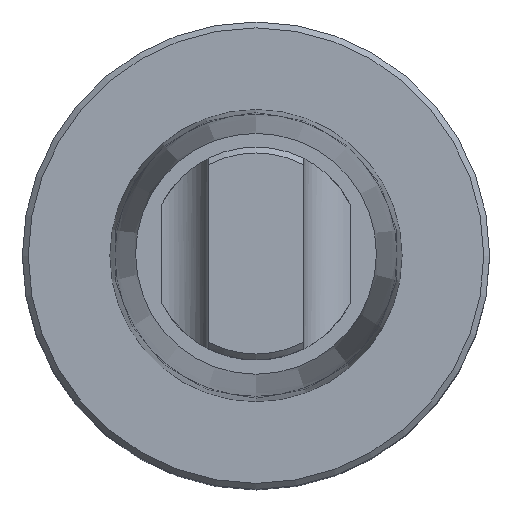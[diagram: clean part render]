
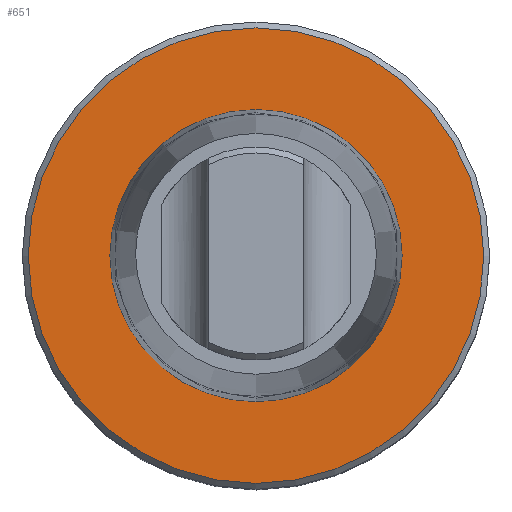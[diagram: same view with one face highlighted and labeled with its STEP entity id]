
A CAD part, top view. The second image highlights one B-rep face of the part: STEP entity #651.
In plain terms, the highlighted planar face has unit normal (0, 0, 1).
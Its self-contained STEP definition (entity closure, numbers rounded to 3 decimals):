
#19=FACE_BOUND('',#217,.T.);
#32=PLANE('',#734);
#171=FACE_OUTER_BOUND('',#216,.T.);
#216=EDGE_LOOP('',(#511));
#217=EDGE_LOOP('',(#512));
#270=CIRCLE('',#733,19.25);
#271=CIRCLE('',#735,12.);
#322=VERTEX_POINT('',#1343);
#323=VERTEX_POINT('',#1347);
#394=EDGE_CURVE('',#322,#322,#270,.T.);
#396=EDGE_CURVE('',#323,#323,#271,.T.);
#511=ORIENTED_EDGE('',*,*,#394,.F.);
#512=ORIENTED_EDGE('',*,*,#396,.F.);
#651=ADVANCED_FACE('',(#171,#19),#32,.T.);
#733=AXIS2_PLACEMENT_3D('',#1344,#850,#851);
#734=AXIS2_PLACEMENT_3D('',#1346,#853,#854);
#735=AXIS2_PLACEMENT_3D('',#1348,#855,#856);
#850=DIRECTION('center_axis',(0.,0.,-1.));
#851=DIRECTION('ref_axis',(0.,-1.,0.));
#853=DIRECTION('center_axis',(0.,0.,1.));
#854=DIRECTION('ref_axis',(1.,0.,0.));
#855=DIRECTION('center_axis',(0.,0.,1.));
#856=DIRECTION('ref_axis',(1.,0.,0.));
#1343=CARTESIAN_POINT('',(0.,19.25,-104.5));
#1344=CARTESIAN_POINT('Origin',(0.,0.,-104.5));
#1346=CARTESIAN_POINT('Origin',(0.,12.,-104.5));
#1347=CARTESIAN_POINT('',(0.,-12.,-104.5));
#1348=CARTESIAN_POINT('Origin',(0.,0.,-104.5));
